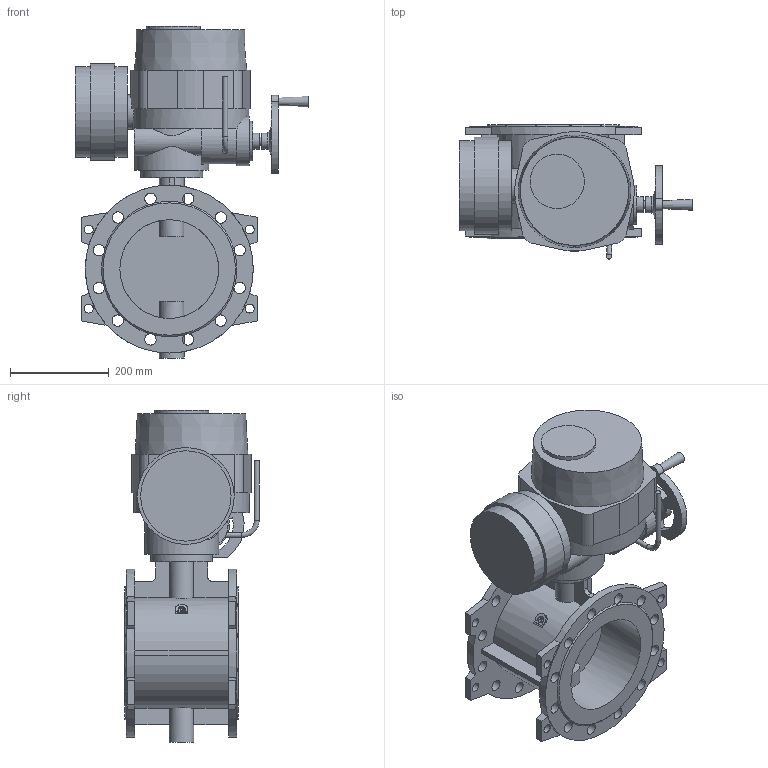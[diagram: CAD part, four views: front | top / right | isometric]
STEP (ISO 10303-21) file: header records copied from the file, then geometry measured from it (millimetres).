
FILE_DESCRIPTION(('STEP AP203'), '1');
FILE_NAME('Çàòâîð 023F.Z DN200 PN16 + ýëåêòðîïðèâîä QT.A050', '', ('UNSPECIFIED'), ('UNSPECIFIED'), 'ASCON STEP Converter 1.6', 'ASCON Math Kernel', '');
FILE_SCHEMA(('CONFIG_CONTROL_DESIGN'));
Length unit declared in the file: millimetre
Bounding box: 472 x 272 x 672 mm (x, y, z)
Volume: 19750970.8 mm3; surface area: 1187547 mm2
Topology: 1 solids, 1 shells, 241 faces, 680 edges, 449 vertices
Faces by surface type: plane 133, cylinder 102, cone 5, torus 1
Full cylindrical faces by diameter (mm): 6.7 x8, 10 x2, 12 x4, 16 x1, 18 x8, 23 x24, 32 x2, 35 x1, 50 x1, 70 x1, 80 x1, 100 x1, 110 x1, 125 x1, 150 x1, 183 x2, 196 x1, 200 x2, 340 x2
Entity records: 12600 total; most frequent: CARTESIAN_POINT 4352, DIRECTION 1335, ORIENTED_EDGE 1220, EDGE_CURVE 610, AXIS2_PLACEMENT_3D 535, VERTEX_POINT 449, EDGE_LOOP 389, CIRCLE 293
